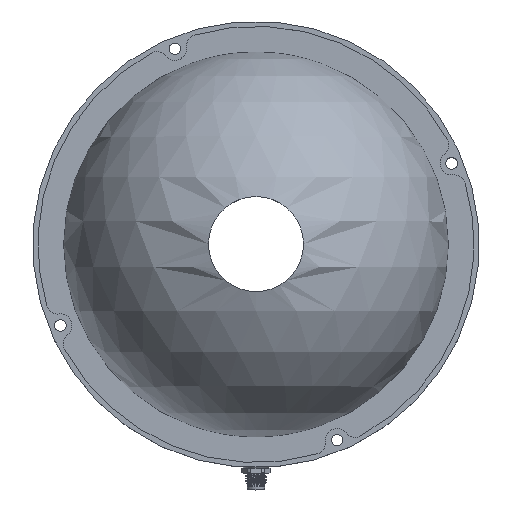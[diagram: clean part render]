
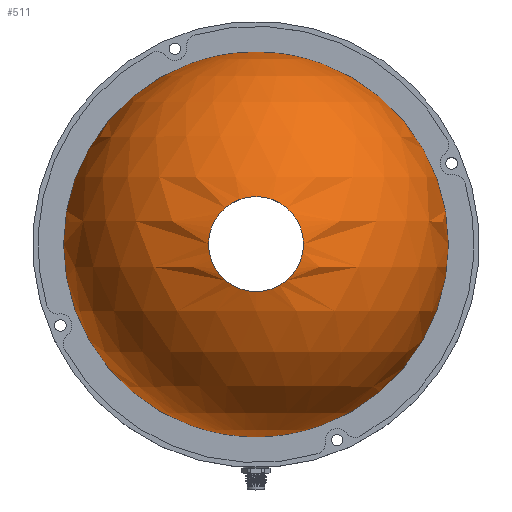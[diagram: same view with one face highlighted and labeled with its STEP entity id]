
A CAD part, top view. The second image highlights one B-rep face of the part: STEP entity #511.
In plain terms, the highlighted spherical face has radius 75 mm.
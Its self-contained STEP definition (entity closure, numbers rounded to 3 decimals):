
#511 = ADVANCED_FACE ( 'NONE', ( #17402, #14315 ), #9865, .T. ) ;
#855 = DIRECTION ( 'NONE',  ( 1., 0., 0. ) ) ;
#2153 = EDGE_CURVE ( 'NONE', #17271, #17271, #14490, .T. ) ;
#2739 = AXIS2_PLACEMENT_3D ( 'NONE', #3170, #9085, #11937 ) ;
#3002 = ORIENTED_EDGE ( 'NONE', *, *, #3764, .T. ) ;
#3170 = CARTESIAN_POINT ( 'NONE',  ( 0., 0., 0. ) ) ;
#3764 = EDGE_CURVE ( 'NONE', #13049, #13049, #10470, .T. ) ;
#5337 = DIRECTION ( 'NONE',  ( 0., 0., -1. ) ) ;
#5398 = CARTESIAN_POINT ( 'NONE',  ( 0., 0., 70.683 ) ) ;
#6047 = ORIENTED_EDGE ( 'NONE', *, *, #2153, .T. ) ;
#6759 = DIRECTION ( 'NONE',  ( 0., 1., 0. ) ) ;
#9085 = DIRECTION ( 'NONE',  ( 0., 0., 1. ) ) ;
#9865 = SPHERICAL_SURFACE ( 'NONE', #12839, 75. ) ;
#10470 = CIRCLE ( 'NONE', #11160, 18.5 ) ;
#10855 = DIRECTION ( 'NONE',  ( 0., -1., 0. ) ) ;
#11160 = AXIS2_PLACEMENT_3D ( 'NONE', #5398, #5337, #6759 ) ;
#11729 = CARTESIAN_POINT ( 'NONE',  ( 0., 18.5, 70.683 ) ) ;
#11937 = DIRECTION ( 'NONE',  ( 0., -1., 0. ) ) ;
#12839 = AXIS2_PLACEMENT_3D ( 'NONE', #13639, #10855, #855 ) ;
#13049 = VERTEX_POINT ( 'NONE', #11729 ) ;
#13639 = CARTESIAN_POINT ( 'NONE',  ( 0., 0., -2. ) ) ;
#13763 = EDGE_LOOP ( 'NONE', ( #6047 ) ) ;
#14315 = FACE_OUTER_BOUND ( 'NONE', #16639, .T. ) ;
#14490 = CIRCLE ( 'NONE', #2739, 74.973 ) ;
#14581 = CARTESIAN_POINT ( 'NONE',  ( 0., -74.973, 0. ) ) ;
#16639 = EDGE_LOOP ( 'NONE', ( #3002 ) ) ;
#17271 = VERTEX_POINT ( 'NONE', #14581 ) ;
#17402 = FACE_OUTER_BOUND ( 'NONE', #13763, .T. ) ;
